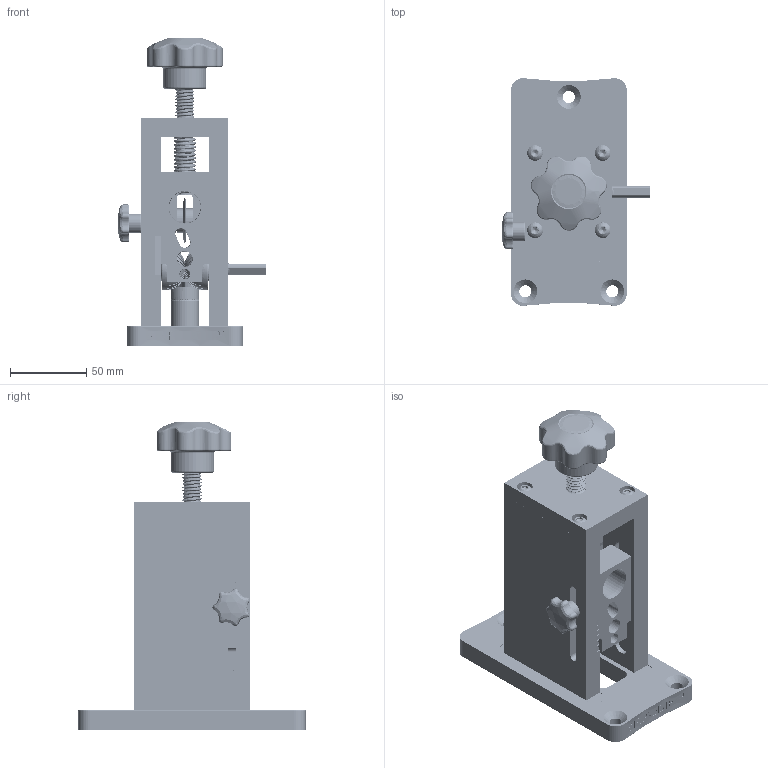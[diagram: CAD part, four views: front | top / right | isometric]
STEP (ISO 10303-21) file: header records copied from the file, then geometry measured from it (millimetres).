
FILE_DESCRIPTION(/* description */ (''),/* implementation_level */ '2;1');
FILE_NAME(/* name */ '/Users/DGiangola/Downloads/Stripmeister v19.step',/* time_stamp */ '2022-09-13T17:39:08-04:00',/* author */ (''),/* organization */ (''),/* preprocessor_version */ 'ST-DEVELOPER v19',/* originating_system */ 'Autodesk Translation Framework v11.7.0.108',/* authorisation */ '');
FILE_SCHEMA (('AUTOMOTIVE_DESIGN { 1 0 10303 214 3 1 1 }'));
Products named in the file (16): Stripmeister; Peg; Shaft; Cutter Assembly; 9657K134_Compression Spring; Wire Guide; 6092K41_Nylon Seven Arm Knob; Frame; Base; 92949A539_18-8 Stainless Steel Button Head Hex Drive Screw; Right Leg; 5972K501_Ball Bearing (1); Left Leg; 5972K501_Ball Bearing; Top; 92949A539_18-8 Stainless Steel Button Head Hex Drive Screw (1)
Assembly tree (15 placements, depth 4):
  Stripmeister
    Peg
    Shaft
    Cutter Assembly
      9657K134_Compression Spring
    Wire Guide
      6092K41_Nylon Seven Arm Knob
    Frame
      Base
        92949A539_18-8 Stainless Steel Button Head Hex Drive Screw
      Right Leg
        5972K501_Ball Bearing (1)
      Left Leg
        5972K501_Ball Bearing
      Top
        92949A539_18-8 Stainless Steel Button Head Hex Drive Screw (1)
Bounding box: 97.96 x 149.61 x 202.25 mm (x, y, z)
Volume: 527265.5 mm3; surface area: 159798 mm2
Topology: 60 solids, 60 shells, 2294 faces, 5697 edges, 3560 vertices
Faces by surface type: cylinder 960, plane 537, torus 323, bspline 283, cone 127, sphere 64
Full cylindrical faces by diameter (mm): 3.795 x15, 4.067 x5, 4.445 x1, 4.7 x90, 4.763 x1, 4.826 x24, 5.116 x9, 6.35 x99, 6.604 x1, 7.938 x16, 8 x5, 9.944 x1, 10.18 x35, 10.319 x13, 11.049 x4, 11.1 x9, 11.735 x1, 12.555 x35, 12.7 x4, 13.681 x8, 15.9 x2, 16.319 x8, 18.399 x1, 18.653 x2, 20.841 x1, 22 x2, 22.098 x1, 22.86 x1, 28.245 x1
Entity records: 115279 total; most frequent: CARTESIAN_POINT 63473, ORIENTED_EDGE 11266, DIRECTION 10020, EDGE_CURVE 5633, AXIS2_PLACEMENT_3D 3967, VERTEX_POINT 3560, EDGE_LOOP 2467, FACE_OUTER_BOUND 2294
